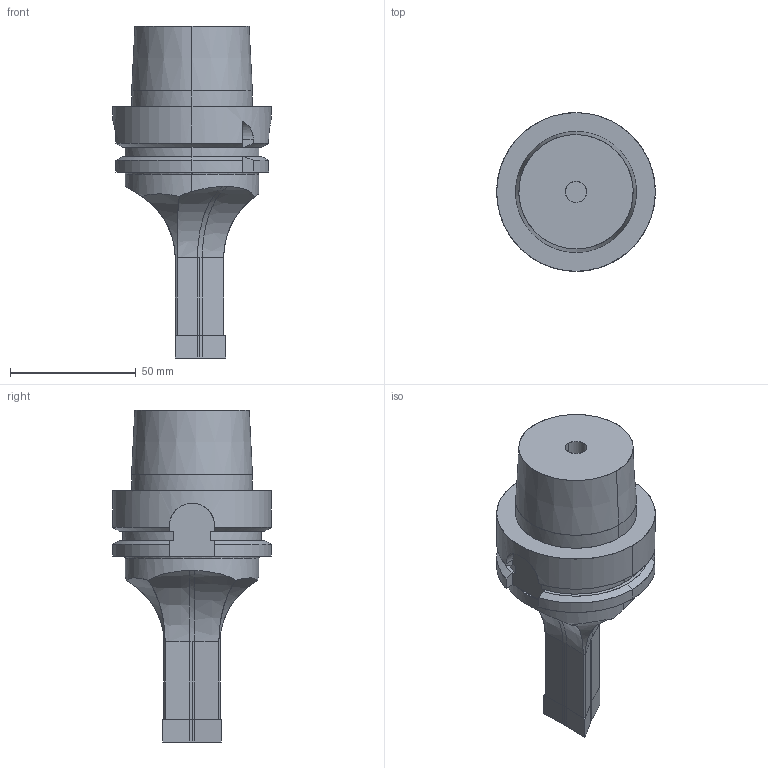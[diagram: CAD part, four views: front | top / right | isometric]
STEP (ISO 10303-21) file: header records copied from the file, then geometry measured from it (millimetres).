
FILE_DESCRIPTION(('OPEN MIND Model'),'2;1');
FILE_NAME('OPEN MIND Shape Model','2021-08-11T14:56:01',('Author'),( 'hyperCAD-S '),'hyperCAD-S STEP processor 6.6','hyperCAD-S 1.0' ,'Unknown');
FILE_SCHEMA(('AUTOMOTIVE_DESIGN { 1 2 10303 214 -1 1 5 4 }'));
Length unit declared in the file: millimetre
Products named in the file (105): Product 1; Product 1.1; Product 1.2; Product 1.3; Product 1.4; Product 1.5; Product 1.6; Product 1.7; Product 1.8; Product 1.9; Product 1.10; Product 1.11; Product 1.12; Product 1.13; Product 1.14; Product 1.15; Product 1.16; Product 1.17; Product 1.18; Product 1.19; Product 1.20; Product 1.21; Product 1.22; Product 1.23; Product 1.24; Product 1.25; Product 1.26; Product 1.27; Product 1.28; Product 1.29; Product 1.30; Product 1.31; Product 1.32; Product 1.33; Product 1.34; Product 1.35; Product 1.36; Product 1.37; Product 1.38; Product 1.39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
Assembly tree (104 placements, depth 2):
  Product 1
    Product 1.1
    Product 1.2
    Product 1.3
    Product 1.4
    Product 1.5
    Product 1.6
    Product 1.7
    Product 1.8
    Product 1.9
    Product 1.10
    Product 1.11
    Product 1.12
    Product 1.13
    Product 1.14
    Product 1.15
    Product 1.16
    Product 1.17
    Product 1.18
    Product 1.19
    Product 1.20
    Product 1.21
    Product 1.22
    Product 1.23
    Product 1.24
    Product 1.25
    Product 1.26
    Product 1.27
    Product 1.28
    Product 1.29
    Product 1.30
    Product 1.31
    Product 1.32
    Product 1.33
    Product 1.34
    Product 1.35
    Product 1.36
    Product 1.37
    Product 1.38
    Product 1.39
    Product 1.40
    Product 1.41
    Product 1.42
    Product 1.43
    Product 1.44
    Product 1.45
    Product 1.46
    Product 1.47
    Product 1.48
    Product 1.49
    Product 1.50
    Product 1.51
    Product 1.52
    Product 1.53
    Product 1.54
    Product 1.55
    Product 1.56
    Product 1.57
    Product 1.58
    Product 1.59
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Bounding box: 63 x 63 x 131.86 mm (x, y, z)
Volume: 1961.7 mm3; surface area: 24014 mm2
Topology: 1 solids, 91 shells, 104 faces, 523 edges, 524 vertices
Faces by surface type: plane 42, cylinder 37, revolution 22, bspline 3
Entity records: 14612 total; most frequent: CARTESIAN_POINT 7260, B_SPLINE_CURVE_WITH_KNOTS 870, ORIENTED_EDGE 547, PCURVE 547, DEFINITIONAL_REPRESENTATION 547, DIRECTION 528, EDGE_CURVE 511, SURFACE_CURVE 511
